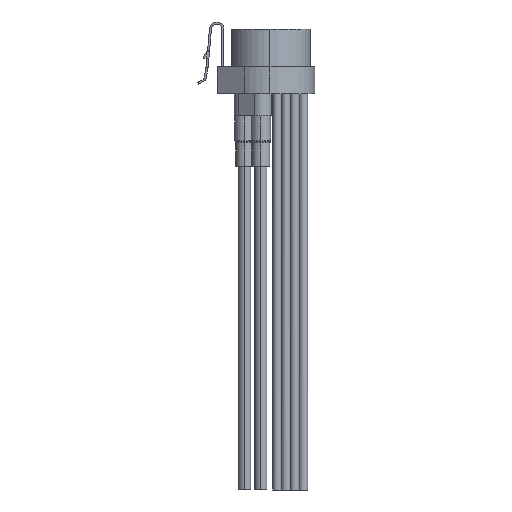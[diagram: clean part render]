
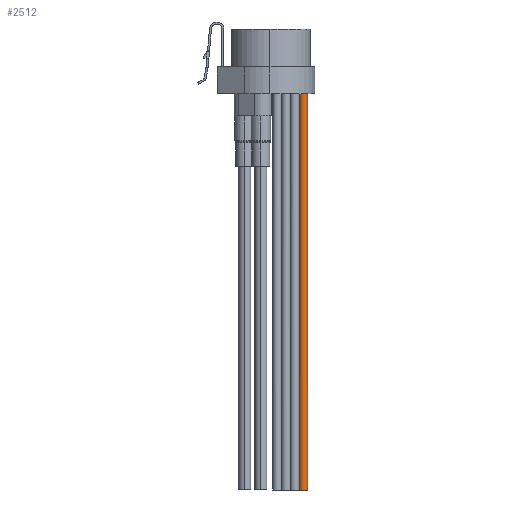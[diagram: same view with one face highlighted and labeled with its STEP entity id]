
A CAD part, left-side view. The second image highlights one B-rep face of the part: STEP entity #2512.
In plain terms, the highlighted cylindrical face has radius 0.546 mm (diameter 1.092 mm), a partial arc.
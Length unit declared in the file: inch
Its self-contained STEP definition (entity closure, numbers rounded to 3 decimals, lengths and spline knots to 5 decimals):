
#13 = AXIS2_PLACEMENT_3D ( 'NONE', #11368, #4633, #7129 ) ;
#110 = FACE_OUTER_BOUND ( 'NONE', #14169, .T. ) ;
#179 = B_SPLINE_CURVE_WITH_KNOTS ( 'NONE', 3,
 ( #2114, #8879, #11515, #11687, #16916, #6314, #3566, #14406, #11563, #7682 ),
 .UNSPECIFIED., .F., .F.,
 ( 4, 2, 2, 2, 4 ),
 ( 0.00171, 0.00214, 0.00257, 0.003, 0.00343 ),
 .UNSPECIFIED. ) ;
#534 = VERTEX_POINT ( 'NONE', #12003 ) ;
#1747 = CARTESIAN_POINT ( 'NONE',  ( -0.025, -0.1434, -1.964 ) ) ;
#2114 = CARTESIAN_POINT ( 'NONE',  ( -0.025, -0.1434, 0.00597 ) ) ;
#2242 = DIRECTION ( 'NONE',  ( 0., -1., 0. ) ) ;
#2264 = VERTEX_POINT ( 'NONE', #16310 ) ;
#2512 = ADVANCED_FACE ( 'NONE', ( #110 ), #5819, .T. ) ;
#2586 = LINE ( 'NONE', #12263, #14852 ) ;
#2886 = ORIENTED_EDGE ( 'NONE', *, *, #3697, .F. ) ;
#3566 = CARTESIAN_POINT ( 'NONE',  ( -0.04421, -0.17608, 0.00185 ) ) ;
#3681 = EDGE_CURVE ( 'NONE', #16670, #534, #9802, .T. ) ;
#3697 = EDGE_CURVE ( 'NONE', #5532, #2264, #2586, .T. ) ;
#3707 = ORIENTED_EDGE ( 'NONE', *, *, #14780, .F. ) ;
#4280 = ORIENTED_EDGE ( 'NONE', *, *, #3681, .T. ) ;
#4633 = DIRECTION ( 'NONE',  ( 0., 0., -1. ) ) ;
#5278 = EDGE_CURVE ( 'NONE', #2264, #534, #179, .T. ) ;
#5532 = VERTEX_POINT ( 'NONE', #1747 ) ;
#5545 = DIRECTION ( 'NONE',  ( 0., 0., 1. ) ) ;
#5690 = CIRCLE ( 'NONE', #13, 0.0215 ) ;
#5819 = CYLINDRICAL_SURFACE ( 'NONE', #14423, 0.0215 ) ;
#5918 = CARTESIAN_POINT ( 'NONE',  ( -0.025, -0.1864, -1.964 ) ) ;
#6314 = CARTESIAN_POINT ( 'NONE',  ( -0.04651, -0.17051, 0.00238 ) ) ;
#7129 = DIRECTION ( 'NONE',  ( 0., 1., 0. ) ) ;
#7682 = CARTESIAN_POINT ( 'NONE',  ( -0.025, -0.1864, 0.00112 ) ) ;
#8879 = CARTESIAN_POINT ( 'NONE',  ( -0.03063, -0.1434, 0.00585 ) ) ;
#9802 = LINE ( 'NONE', #12331, #14439 ) ;
#11368 = CARTESIAN_POINT ( 'NONE',  ( -0.025, -0.1649, -1.964 ) ) ;
#11515 = CARTESIAN_POINT ( 'NONE',  ( -0.03625, -0.14574, 0.00544 ) ) ;
#11563 = CARTESIAN_POINT ( 'NONE',  ( -0.0307, -0.1864, 0.00105 ) ) ;
#11687 = CARTESIAN_POINT ( 'NONE',  ( -0.04416, -0.15366, 0.00433 ) ) ;
#12003 = CARTESIAN_POINT ( 'NONE',  ( -0.025, -0.1864, 0.00112 ) ) ;
#12263 = CARTESIAN_POINT ( 'NONE',  ( -0.025, -0.1434, -1.964 ) ) ;
#12331 = CARTESIAN_POINT ( 'NONE',  ( -0.025, -0.1864, -1.964 ) ) ;
#14169 = EDGE_LOOP ( 'NONE', ( #2886, #3707, #4280, #15049 ) ) ;
#14171 = DIRECTION ( 'NONE',  ( 0., 0., 1. ) ) ;
#14406 = CARTESIAN_POINT ( 'NONE',  ( -0.03628, -0.18405, 0.00118 ) ) ;
#14423 = AXIS2_PLACEMENT_3D ( 'NONE', #15708, #14171, #2242 ) ;
#14439 = VECTOR ( 'NONE', #16290, 39.37008 ) ;
#14780 = EDGE_CURVE ( 'NONE', #16670, #5532, #5690, .T. ) ;
#14852 = VECTOR ( 'NONE', #5545, 39.37008 ) ;
#15049 = ORIENTED_EDGE ( 'NONE', *, *, #5278, .F. ) ;
#15708 = CARTESIAN_POINT ( 'NONE',  ( -0.025, -0.1649, -1.964 ) ) ;
#16290 = DIRECTION ( 'NONE',  ( 0., 0., 1. ) ) ;
#16310 = CARTESIAN_POINT ( 'NONE',  ( -0.025, -0.1434, 0.00597 ) ) ;
#16670 = VERTEX_POINT ( 'NONE', #5918 ) ;
#16916 = CARTESIAN_POINT ( 'NONE',  ( -0.04649, -0.1592, 0.00363 ) ) ;
